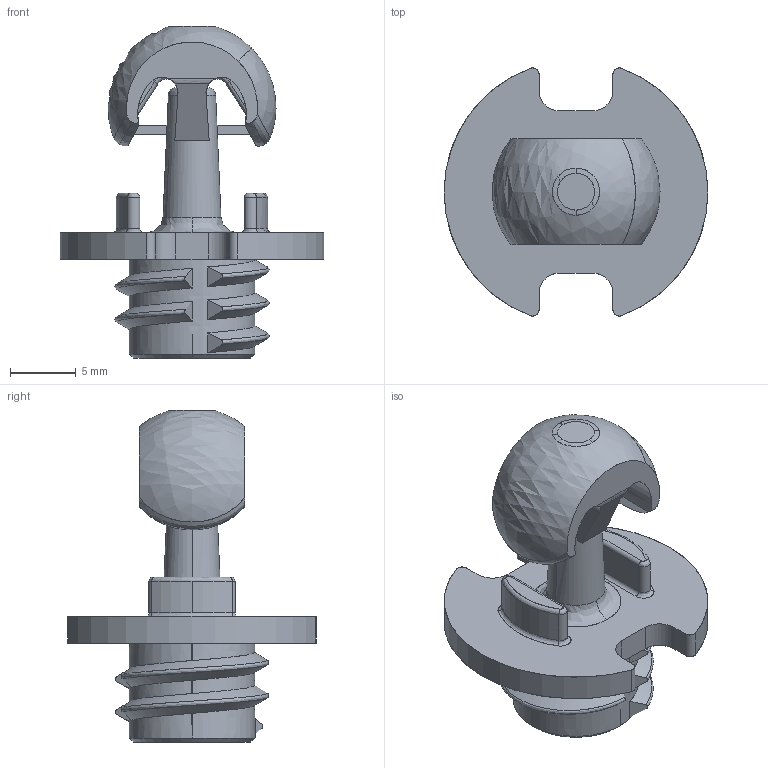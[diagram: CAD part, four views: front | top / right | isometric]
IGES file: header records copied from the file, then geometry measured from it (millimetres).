
Start section: SolidWorks IGES file using analytic representation for surfaces
Global section: file name: D:\Blender\Clients\FAS - Fastmount\FAS000 - General\Customer files\Clip Geometry\PC - Standard Range\IGES\PC-M2H.IGS; native system: SolidWorks 2018; preprocessor: SolidWorks 2018; author: Evan; date: 190204.094056; units: millimetre
Bounding box: 20 x 18.82 x 25.17 mm (x, y, z)
Surface area: 1756.9 mm2 (no closed solid volume)
Topology: 0 solids, 0 shells, 238 faces, 2543 edges, 2538 vertices
Faces by surface type: bspline 186, revolution 52
